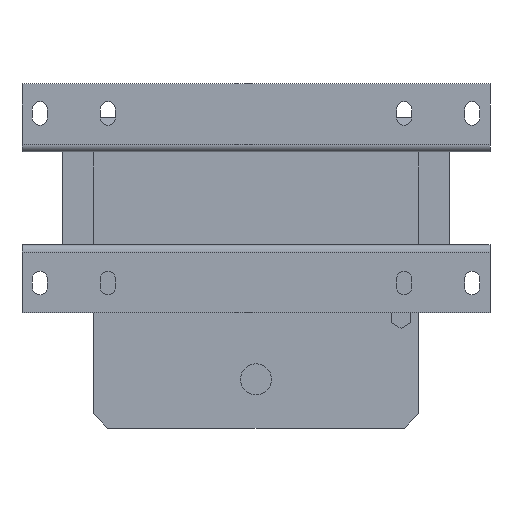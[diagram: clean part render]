
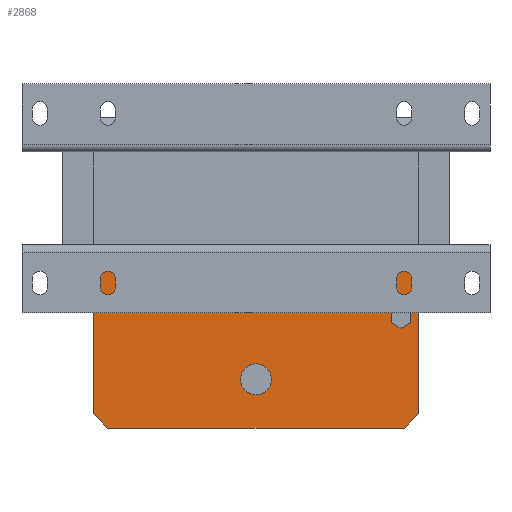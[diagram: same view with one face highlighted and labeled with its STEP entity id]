
A CAD part, front view. The second image highlights one B-rep face of the part: STEP entity #2868.
In plain terms, the highlighted planar face has unit normal (0, -1, 0).
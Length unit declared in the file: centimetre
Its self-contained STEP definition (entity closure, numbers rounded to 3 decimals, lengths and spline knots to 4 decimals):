
#94 = LINE ( 'NONE', #1678, #16528 ) ;
#637 = DIRECTION ( 'NONE',  ( 0., 1., 0. ) ) ;
#964 = EDGE_CURVE ( 'NONE', #11790, #11160, #18844, .T. ) ;
#1029 = EDGE_CURVE ( 'NONE', #18677, #23425, #25380, .T. ) ;
#1149 = EDGE_CURVE ( 'NONE', #4614, #16566, #25034, .T. ) ;
#1471 = CARTESIAN_POINT ( 'NONE',  ( -11., 4.3, -3.53 ) ) ;
#1601 = ORIENTED_EDGE ( 'NONE', *, *, #14786, .T. ) ;
#1624 = LINE ( 'NONE', #10309, #13333 ) ;
#1678 = CARTESIAN_POINT ( 'NONE',  ( 9.15, 4.3, -3.53 ) ) ;
#1887 = EDGE_CURVE ( 'NONE', #19027, #4844, #23325, .T. ) ;
#2708 = CARTESIAN_POINT ( 'NONE',  ( -11., 4.3, -4.13 ) ) ;
#2868 = ADVANCED_FACE ( 'NONE', ( #24406, #9459, #16284 ), #18283, .F. ) ;
#3014 = DIRECTION ( 'NONE',  ( 0., 0., 1. ) ) ;
#3692 = EDGE_CURVE ( 'NONE', #11308, #19028, #94, .T. ) ;
#3747 = EDGE_CURVE ( 'NONE', #4844, #18677, #21735, .T. ) ;
#3849 = EDGE_CURVE ( 'NONE', #16076, #11134, #23998, .T. ) ;
#4269 = ORIENTED_EDGE ( 'NONE', *, *, #964, .T. ) ;
#4526 = VECTOR ( 'NONE', #14570, 100. ) ;
#4614 = VERTEX_POINT ( 'NONE', #11546 ) ;
#4844 = VERTEX_POINT ( 'NONE', #21739 ) ;
#5465 = ORIENTED_EDGE ( 'NONE', *, *, #3747, .T. ) ;
#5611 = DIRECTION ( 'NONE',  ( -0.866, 0., -0.5 ) ) ;
#5939 = VECTOR ( 'NONE', #5611, 100. ) ;
#6098 = CARTESIAN_POINT ( 'NONE',  ( 9.0764, 4.3, -6.8617 ) ) ;
#6326 = EDGE_CURVE ( 'NONE', #16076, #11790, #1624, .T. ) ;
#6411 = CARTESIAN_POINT ( 'NONE',  ( 9.8, 4.3, -7.2794 ) ) ;
#6798 = AXIS2_PLACEMENT_3D ( 'NONE', #15980, #24664, #3014 ) ;
#6931 = VECTOR ( 'NONE', #26068, 100. ) ;
#6935 = DIRECTION ( 'NONE',  ( 0., 0., -1. ) ) ;
#7183 = CARTESIAN_POINT ( 'NONE',  ( 11., 4.3, -3.53 ) ) ;
#7525 = VECTOR ( 'NONE', #6935, 100. ) ;
#7573 = ORIENTED_EDGE ( 'NONE', *, *, #3849, .F. ) ;
#7647 = LINE ( 'NONE', #14186, #17410 ) ;
#8420 = CARTESIAN_POINT ( 'NONE',  ( 12.3236, 4.3, -5.8225 ) ) ;
#8557 = ORIENTED_EDGE ( 'NONE', *, *, #11699, .T. ) ;
#8623 = VECTOR ( 'NONE', #21198, 100. ) ;
#8632 = DIRECTION ( 'NONE',  ( 0., 0., -1. ) ) ;
#8634 = ORIENTED_EDGE ( 'NONE', *, *, #1887, .T. ) ;
#9459 = FACE_OUTER_BOUND ( 'NONE', #25861, .T. ) ;
#9620 = VECTOR ( 'NONE', #16718, 100. ) ;
#9888 = LINE ( 'NONE', #18854, #9620 ) ;
#10309 = CARTESIAN_POINT ( 'NONE',  ( 11., 4.3, -4.13 ) ) ;
#10397 = LINE ( 'NONE', #23489, #24848 ) ;
#10406 = CARTESIAN_POINT ( 'NONE',  ( 9.15, 4.3, -7.6547 ) ) ;
#10446 = CIRCLE ( 'NONE', #6798, 1.05 ) ;
#10497 = DIRECTION ( 'NONE',  ( 0., 0., 1. ) ) ;
#11064 = VECTOR ( 'NONE', #8632, 100. ) ;
#11134 = VERTEX_POINT ( 'NONE', #14737 ) ;
#11143 = CARTESIAN_POINT ( 'NONE',  ( 10.45, 4.3, -8.4053 ) ) ;
#11160 = VERTEX_POINT ( 'NONE', #19548 ) ;
#11289 = CARTESIAN_POINT ( 'NONE',  ( 11., 4.3, -4.13 ) ) ;
#11308 = VERTEX_POINT ( 'NONE', #20138 ) ;
#11546 = CARTESIAN_POINT ( 'NONE',  ( 0., 4.3, -11.18 ) ) ;
#11609 = VERTEX_POINT ( 'NONE', #17530 ) ;
#11699 = EDGE_CURVE ( 'NONE', #19028, #19027, #19814, .T. ) ;
#11790 = VERTEX_POINT ( 'NONE', #2708 ) ;
#11827 = ORIENTED_EDGE ( 'NONE', *, *, #1029, .T. ) ;
#12101 = CARTESIAN_POINT ( 'NONE',  ( 0., 4.3, -13.28 ) ) ;
#12164 = LINE ( 'NONE', #23403, #4526 ) ;
#12295 = EDGE_CURVE ( 'NONE', #22940, #11134, #7647, .T. ) ;
#12389 = ORIENTED_EDGE ( 'NONE', *, *, #18339, .F. ) ;
#12669 = ORIENTED_EDGE ( 'NONE', *, *, #1149, .F. ) ;
#12717 = ORIENTED_EDGE ( 'NONE', *, *, #6326, .T. ) ;
#13305 = CARTESIAN_POINT ( 'NONE',  ( 9.8, 4.3, -8.7806 ) ) ;
#13333 = VECTOR ( 'NONE', #18988, 100. ) ;
#14186 = CARTESIAN_POINT ( 'NONE',  ( 10., 4.3, -15.53 ) ) ;
#14570 = DIRECTION ( 'NONE',  ( -0.866, 0., 0.5 ) ) ;
#14737 = CARTESIAN_POINT ( 'NONE',  ( 11., 4.3, -14.53 ) ) ;
#14786 = EDGE_CURVE ( 'NONE', #23425, #11308, #12164, .T. ) ;
#14962 = EDGE_CURVE ( 'NONE', #16566, #4614, #10446, .T. ) ;
#15560 = ORIENTED_EDGE ( 'NONE', *, *, #12295, .T. ) ;
#15863 = DIRECTION ( 'NONE',  ( 0., 0., 1. ) ) ;
#15980 = CARTESIAN_POINT ( 'NONE',  ( 0., 4.3, -12.23 ) ) ;
#16076 = VERTEX_POINT ( 'NONE', #11289 ) ;
#16284 = FACE_BOUND ( 'NONE', #23886, .T. ) ;
#16422 = CARTESIAN_POINT ( 'NONE',  ( 12.9736, 4.3, -6.9483 ) ) ;
#16528 = VECTOR ( 'NONE', #10497, 100. ) ;
#16543 = DIRECTION ( 'NONE',  ( 0.707, 0., -0.707 ) ) ;
#16566 = VERTEX_POINT ( 'NONE', #12101 ) ;
#16718 = DIRECTION ( 'NONE',  ( -1., 0., 0. ) ) ;
#17247 = DIRECTION ( 'NONE',  ( 0., 0., 1. ) ) ;
#17394 = CARTESIAN_POINT ( 'NONE',  ( 0., 4.3, -12.23 ) ) ;
#17410 = VECTOR ( 'NONE', #22486, 100. ) ;
#17530 = CARTESIAN_POINT ( 'NONE',  ( -10., 4.3, -15.53 ) ) ;
#18212 = VECTOR ( 'NONE', #18423, 100. ) ;
#18283 = PLANE ( 'NONE',  #21474 ) ;
#18339 = EDGE_CURVE ( 'NONE', #22940, #11609, #9888, .T. ) ;
#18423 = DIRECTION ( 'NONE',  ( 0., 0., -1. ) ) ;
#18677 = VERTEX_POINT ( 'NONE', #11143 ) ;
#18844 = LINE ( 'NONE', #1471, #18212 ) ;
#18854 = CARTESIAN_POINT ( 'NONE',  ( 11., 4.3, -15.53 ) ) ;
#18988 = DIRECTION ( 'NONE',  ( -1., 0., 0. ) ) ;
#19027 = VERTEX_POINT ( 'NONE', #6411 ) ;
#19028 = VERTEX_POINT ( 'NONE', #10406 ) ;
#19548 = CARTESIAN_POINT ( 'NONE',  ( -11., 4.3, -14.53 ) ) ;
#19755 = CARTESIAN_POINT ( 'NONE',  ( 11., 4.3, -3.53 ) ) ;
#19814 = LINE ( 'NONE', #8420, #6931 ) ;
#19846 = EDGE_LOOP ( 'NONE', ( #12669, #24258 ) ) ;
#20138 = CARTESIAN_POINT ( 'NONE',  ( 9.15, 4.3, -8.4053 ) ) ;
#20564 = ORIENTED_EDGE ( 'NONE', *, *, #3692, .T. ) ;
#21036 = CARTESIAN_POINT ( 'NONE',  ( 10., 4.3, -15.53 ) ) ;
#21198 = DIRECTION ( 'NONE',  ( 0.866, 0., -0.5 ) ) ;
#21474 = AXIS2_PLACEMENT_3D ( 'NONE', #7183, #637, #15863 ) ;
#21735 = LINE ( 'NONE', #28139, #11064 ) ;
#21739 = CARTESIAN_POINT ( 'NONE',  ( 10.45, 4.3, -7.6547 ) ) ;
#21846 = AXIS2_PLACEMENT_3D ( 'NONE', #17394, #26211, #17247 ) ;
#22486 = DIRECTION ( 'NONE',  ( 0.707, 0., 0.707 ) ) ;
#22940 = VERTEX_POINT ( 'NONE', #21036 ) ;
#23325 = LINE ( 'NONE', #6098, #8623 ) ;
#23403 = CARTESIAN_POINT ( 'NONE',  ( 8.4264, 4.3, -7.9875 ) ) ;
#23425 = VERTEX_POINT ( 'NONE', #13305 ) ;
#23489 = CARTESIAN_POINT ( 'NONE',  ( -11., 4.3, -14.53 ) ) ;
#23886 = EDGE_LOOP ( 'NONE', ( #8557, #8634, #5465, #11827, #1601, #20564 ) ) ;
#23998 = LINE ( 'NONE', #19755, #7525 ) ;
#24258 = ORIENTED_EDGE ( 'NONE', *, *, #14962, .F. ) ;
#24406 = FACE_BOUND ( 'NONE', #19846, .T. ) ;
#24664 = DIRECTION ( 'NONE',  ( 0., -1., 0. ) ) ;
#24848 = VECTOR ( 'NONE', #16543, 100. ) ;
#25034 = CIRCLE ( 'NONE', #21846, 1.05 ) ;
#25380 = LINE ( 'NONE', #16422, #5939 ) ;
#25861 = EDGE_LOOP ( 'NONE', ( #15560, #7573, #12717, #4269, #26109, #12389 ) ) ;
#26068 = DIRECTION ( 'NONE',  ( 0.866, 0., 0.5 ) ) ;
#26109 = ORIENTED_EDGE ( 'NONE', *, *, #27556, .T. ) ;
#26211 = DIRECTION ( 'NONE',  ( 0., -1., 0. ) ) ;
#27556 = EDGE_CURVE ( 'NONE', #11160, #11609, #10397, .T. ) ;
#28139 = CARTESIAN_POINT ( 'NONE',  ( 10.45, 4.3, -3.53 ) ) ;
